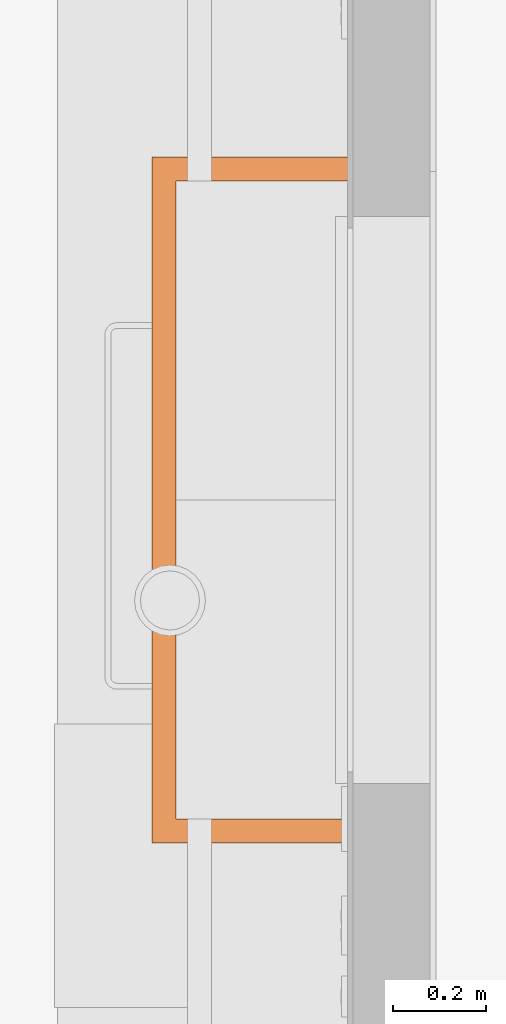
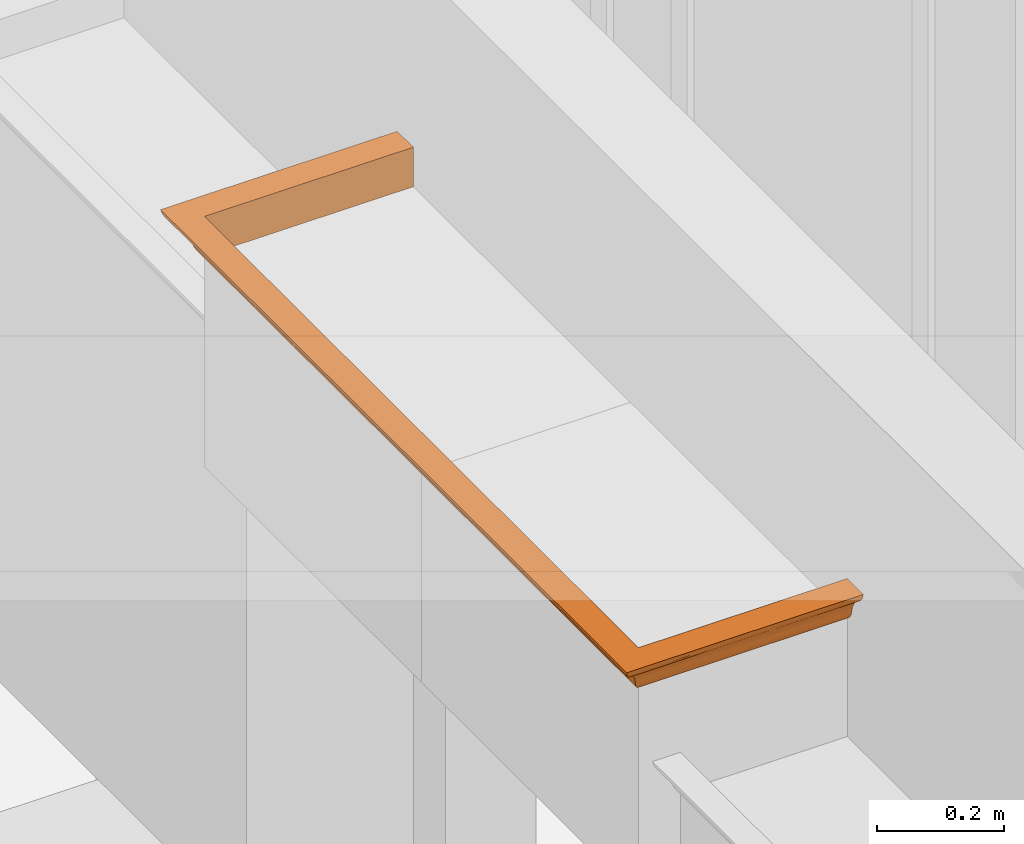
# One storey, part 74 of 81: 1 proxy.
"""IFC2X3 building model written with IfcOpenShell, lengths in feet."""

from ifc_helpers import new_model, entity, si_unit, converted_unit, derived_unit, direction, frame, origin, place, context, subcontext, project, spatial, faceted_brep, source, transform, mapped, material, type_object, type_shapes, element, save


model = new_model("IFC2X3")

# Units and contexts
model_context = context("Model", 3, precision=0.0001, world=origin(), true_north=direction((6.12303176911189e-17, 1.0)))
body_context = subcontext(model_context, "Body", "Model", "MODEL_VIEW")
ifc_project = project(units=[converted_unit("LENGTHUNIT", "FOOT", entity("IfcRatioMeasure", 0.3048), si_unit("LENGTHUNIT", "METRE"), dimensions=[1, 0, 0, 0, 0, 0, 0]), converted_unit("AREAUNIT", "SQUARE FOOT", entity("IfcRatioMeasure", 0.09290304), si_unit("AREAUNIT", "SQUARE_METRE"), dimensions=[2, 0, 0, 0, 0, 0, 0]), converted_unit("VOLUMEUNIT", "CUBIC FOOT", entity("IfcRatioMeasure", 0.028316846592), si_unit("VOLUMEUNIT", "CUBIC_METRE"), dimensions=[3, 0, 0, 0, 0, 0, 0]), converted_unit("PLANEANGLEUNIT", "DEGREE", entity("IfcRatioMeasure", 0.0174532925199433), si_unit("PLANEANGLEUNIT", "RADIAN"), dimensions=[0, 0, 0, 0, 0, 0, 0]), si_unit("MASSUNIT", "GRAM", prefix="KILO"), derived_unit("MASSDENSITYUNIT", [(si_unit("MASSUNIT", "GRAM", prefix="KILO"), 1), (si_unit("LENGTHUNIT", "METRE"), -3)]), derived_unit("MOMENTOFINERTIAUNIT", [(si_unit("LENGTHUNIT", "METRE"), 4)]), si_unit("TIMEUNIT", "SECOND"), si_unit("FREQUENCYUNIT", "HERTZ"), si_unit("THERMODYNAMICTEMPERATUREUNIT", "DEGREE_CELSIUS"), derived_unit("THERMALTRANSMITTANCEUNIT", [(si_unit("MASSUNIT", "GRAM", prefix="KILO"), 1), (si_unit("THERMODYNAMICTEMPERATUREUNIT", "KELVIN"), -1), (si_unit("TIMEUNIT", "SECOND"), -3)]), derived_unit("VOLUMETRICFLOWRATEUNIT", [(si_unit("LENGTHUNIT", "METRE"), 3), (si_unit("TIMEUNIT", "SECOND"), -1)]), si_unit("ELECTRICCURRENTUNIT", "AMPERE"), si_unit("ELECTRICVOLTAGEUNIT", "VOLT"), si_unit("POWERUNIT", "WATT"), si_unit("FORCEUNIT", "NEWTON"), si_unit("ILLUMINANCEUNIT", "LUX"), si_unit("LUMINOUSFLUXUNIT", "LUMEN"), si_unit("LUMINOUSINTENSITYUNIT", "CANDELA"), derived_unit("USERDEFINED", [(si_unit("MASSUNIT", "GRAM", prefix="KILO"), -1), (si_unit("LENGTHUNIT", "METRE"), -2), (si_unit("TIMEUNIT", "SECOND"), 3), (si_unit("LUMINOUSFLUXUNIT", "LUMEN"), 1)]), derived_unit("LINEARVELOCITYUNIT", [(si_unit("LENGTHUNIT", "METRE"), 1), (si_unit("TIMEUNIT", "SECOND"), -1)]), si_unit("PRESSUREUNIT", "PASCAL"), derived_unit("USERDEFINED", [(si_unit("LENGTHUNIT", "METRE"), -2), (si_unit("MASSUNIT", "GRAM", prefix="KILO"), 1), (si_unit("TIMEUNIT", "SECOND"), -2)]), derived_unit("LINEARFORCEUNIT", [(si_unit("MASSUNIT", "GRAM", prefix="KILO"), 1), (si_unit("LENGTHUNIT", "METRE"), 1), (si_unit("TIMEUNIT", "SECOND"), -2), (si_unit("LENGTHUNIT", "METRE"), -1)]), derived_unit("PLANARFORCEUNIT", [(si_unit("MASSUNIT", "GRAM", prefix="KILO"), 1), (si_unit("LENGTHUNIT", "METRE"), 1), (si_unit("TIMEUNIT", "SECOND"), -2), (si_unit("LENGTHUNIT", "METRE"), -2)])], contexts=[model_context])

# Site, building, storey
site_placement = place(None, origin())
site = spatial("IfcSite", under=ifc_project, at=site_placement, Name="Default", CompositionType="ELEMENT")
building_placement = place(site_placement, origin())
building = spatial("IfcBuilding", under=site, at=building_placement, CompositionType="ELEMENT")
storey_placement = place(building_placement, origin())
storey = spatial("IfcBuildingStorey", under=building, at=storey_placement, Name="First floor", CompositionType="ELEMENT", Elevation=0.0)

# Proxy
ifc_material = material(Name="Default New Material")
building_element_proxy_type = type_object("IfcBuildingElementProxyType", Name="Generic Models 32:Generic Models 28", PredefinedType="NOTDEFINED", material=ifc_material)
shared_shape = source(origin(), body_context, "Body", "Brep", [
    faceted_brep([(1.42190049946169, 4.68927499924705, 0.0179947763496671), (1.42190049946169, 4.70323561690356, 0.0344208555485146), (1.42190049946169, 4.71302868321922, 0.0536253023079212), (1.42190049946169, 4.71812551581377, 0.0745713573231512), (1.42190049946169, 4.72630874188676, 0.108201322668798), (1.42190049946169, 4.74203201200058, 0.139035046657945), (1.42190049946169, 4.76444649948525, 0.165407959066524), (1.42190049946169, 4.79234214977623, 0.185896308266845), (1.42190049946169, 4.80971664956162, 0.198657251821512), (1.42190049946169, 4.82367726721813, 0.215083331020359), (1.42190049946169, 4.83347033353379, 0.234287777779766), (1.42190049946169, 4.83856716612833, 0.255233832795), (1.42190049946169, 4.67190049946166, 0.255233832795), (1.42190049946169, 4.67190049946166, 0.00523383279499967), (1.42190049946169, 0.171900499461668, 0.00523383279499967), (1.42190049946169, 0.171900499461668, 0.255233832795), (1.42190049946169, 0.00523383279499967, 0.255233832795), (1.42190049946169, 0.0103306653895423, 0.234287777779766), (1.42190049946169, 0.0201237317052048, 0.215083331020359), (1.42190049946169, 0.0340843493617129, 0.198657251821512), (1.42190049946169, 0.0514588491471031, 0.185896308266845), (1.42190049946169, 0.0793544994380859, 0.165407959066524), (1.42190049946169, 0.101768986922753, 0.139035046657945), (1.42190049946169, 0.11749225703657, 0.108201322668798), (1.42190049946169, 0.125675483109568, 0.0745713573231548), (1.42190049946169, 0.13077231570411, 0.0536253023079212), (1.42190049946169, 0.140565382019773, 0.0344208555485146), (1.42190049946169, 0.154525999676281, 0.0179947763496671), (0.15452599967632, 4.68927499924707, 0.0179947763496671), (0.171900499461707, 4.67190049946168, 0.00523383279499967), (0.171900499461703, 4.36730199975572, 0.00523383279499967), (0.154525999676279, 0.154525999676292, 0.0179947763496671), (0.171900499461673, 0.476498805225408, 0.00523383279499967), (0.171900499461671, 0.171900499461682, 0.00523383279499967), (0.171900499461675, 0.781097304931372, 0.00523383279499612), (0.158838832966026, 0.62879810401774, 0.0142195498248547), (0.156071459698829, 1.05737580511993, 0.0165874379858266), (0.146284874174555, 0.697641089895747, 0.0267335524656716), (0.146718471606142, 0.391615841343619, 0.0262134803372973), (0.134853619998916, 0.500318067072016, 0.0442426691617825), (0.156394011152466, 1.83440308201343, 0.0163016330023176), (0.139197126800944, 1.94195106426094, 0.0365348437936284), (0.154077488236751, 2.16399889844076, 0.0184153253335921), (0.140565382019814, 4.70323561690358, 0.0344208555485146), (0.146718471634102, 4.45218515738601, 0.026213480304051), (0.134853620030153, 4.34348293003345, 0.0442426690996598), (0.133081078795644, 3.79169395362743, 0.0479768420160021), (0.125675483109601, 4.10892872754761, 0.0745713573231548), (0.171900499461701, 4.06270369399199, 0.00523383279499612), (0.158838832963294, 4.21500289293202, 0.0142195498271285), (0.125675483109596, 3.49973193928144, 0.0745713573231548), (0.1256754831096, 3.80433033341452, 0.0745713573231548), (0.125675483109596, 3.96573126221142, 0.0745713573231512), (0.125675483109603, 4.4135271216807, 0.0745713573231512), (0.130772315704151, 4.71302868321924, 0.0536253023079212), (0.136816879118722, 3.03109730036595, 0.0405444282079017), (0.150426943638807, 3.31831830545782, 0.0220581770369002), (0.147750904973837, 2.99859289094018, 0.0250054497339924), (0.129589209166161, 2.9069307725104, 0.0570153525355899), (0.12958920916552, 3.23888679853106, 0.0570153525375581), (0.149906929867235, 1.53847888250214, 0.0226112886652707), (0.17190049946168, 1.39029411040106, 0.00523383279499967), (0.133081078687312, 1.05210703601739, 0.0479768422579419), (0.125675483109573, 0.734872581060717, 0.0745713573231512), (0.125675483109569, 0.430273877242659, 0.0745713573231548), (0.140565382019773, 0.140565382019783, 0.0344208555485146), (0.13077231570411, 0.130772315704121, 0.0536253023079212), (0.156071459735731, 3.78642519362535, 0.016587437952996), (0.1719004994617, 3.75810538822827, 0.00523383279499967), (0.171900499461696, 3.45350688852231, 0.00523383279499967), (0.171900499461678, 1.08569580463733, 0.00523383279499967), (0.125675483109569, 0.897590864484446, 0.0745713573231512), (0.125675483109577, 1.0394709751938, 0.0745713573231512), (0.125675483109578, 1.34406936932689, 0.0745713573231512), (0.134632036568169, 1.50919407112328, 0.044686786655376), (0.130303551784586, 1.82516771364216, 0.0549186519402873), (0.131922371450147, 2.17489094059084, 0.0506792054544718), (0.134185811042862, 2.52027171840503, 0.0455997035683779), (0.150598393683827, 2.67980209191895, 0.0218777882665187), (0.146284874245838, 4.14615990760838, 0.0267335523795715), (0.137173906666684, 3.42700644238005, 0.0399128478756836), (0.142893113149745, 3.71833111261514, 0.0310897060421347), (0.171900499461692, 2.93770374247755, 0.00523383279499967), (0.142921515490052, 1.02102228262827, 0.0310509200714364), (0.171900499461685, 1.90609725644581, 0.00523383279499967), (0.171900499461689, 2.42190040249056, 0.00523383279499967), (0.125675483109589, 2.56246294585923, 0.0745713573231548), (0.125675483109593, 3.03109744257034, 0.0745713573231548), (0.125675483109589, 3.21333708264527, 0.0745713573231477), (0.140706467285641, 2.27273298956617, 0.0342098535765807), (0.125675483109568, 0.125675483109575, 0.0745713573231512), (0.125675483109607, 4.71812551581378, 0.0745713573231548), (0.12567548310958, 1.64866776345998, 0.0745713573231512), (0.125675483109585, 2.25786455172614, 0.0745713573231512), (0.125675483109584, 1.95326615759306, 0.0745713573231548), (0.125675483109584, 2.4414217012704, 0.0745713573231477), (0.125675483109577, 1.66950631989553, 0.0745713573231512), (0.120989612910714, 4.26423551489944, 0.0975594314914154), (0.120296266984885, 3.78912525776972, 0.0998990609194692), (0.101768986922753, 0.101768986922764, 0.139035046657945), (0.0793544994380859, 0.0793544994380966, 0.165407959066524), (0.0904012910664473, 0.735284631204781, 0.153957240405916), (0.117492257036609, 4.72630874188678, 0.108201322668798), (0.11020337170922, 4.27424705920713, 0.124711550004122), (0.101768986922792, 4.7420320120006, 0.139035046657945), (0.109811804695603, 3.72708725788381, 0.125465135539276), (0.090474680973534, 3.47214464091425, 0.153872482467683), (0.0904085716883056, 4.11354137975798, 0.153948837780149), (0.0514588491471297, 3.24851127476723, 0.185896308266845), (0.0752738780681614, 3.10561347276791, 0.169070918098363), (0.074793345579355, 2.58950547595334, 0.169484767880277), (0.104548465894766, 3.19742467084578, 0.134705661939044), (0.0933158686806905, 2.83520589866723, 0.150488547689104), (0.0868577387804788, 1.50899322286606, 0.1579024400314), (0.0514588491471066, 0.823374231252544, 0.185896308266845), (0.0514588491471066, 0.965254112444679, 0.185896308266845), (0.0514588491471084, 1.2698524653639, 0.185896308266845), (0.051458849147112, 1.55786447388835, 0.185896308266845), (0.0514588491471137, 1.59528961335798, 0.185896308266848), (0.117203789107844, 3.20471996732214, 0.108972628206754), (0.079354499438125, 4.76444649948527, 0.165407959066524), (0.120216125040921, 1.05499671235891, 0.100160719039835), (0.121075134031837, 0.583245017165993, 0.0972607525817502), (0.110198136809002, 0.576909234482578, 0.12472169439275), (0.0912797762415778, 2.11716808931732, 0.152934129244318), (0.117492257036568, 0.117492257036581, 0.108201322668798), (0.111415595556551, 2.65844075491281, 0.12230923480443), (0.0514588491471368, 4.02042665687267, 0.185896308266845), (0.0514588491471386, 4.18314523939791, 0.185896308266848), (0.0514588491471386, 4.48774359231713, 0.185896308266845), (0.034084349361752, 4.80971664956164, 0.198657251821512), (0.0514588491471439, 4.79234214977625, 0.185896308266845), (0.0514588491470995, 0.0514588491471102, 0.185896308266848), (0.0340843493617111, 0.0340843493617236, 0.198657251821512), (0.0514588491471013, 0.356057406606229, 0.185896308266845), (0.0514588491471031, 0.660655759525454, 0.185896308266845), (0.109802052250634, 1.13026597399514, 0.125483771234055), (0.104278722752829, 1.62652146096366, 0.135140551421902), (0.117247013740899, 1.57329587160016, 0.108857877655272), (0.051458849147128, 3.28593652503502, 0.185896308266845), (0.0514588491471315, 3.57394853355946, 0.185896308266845), (0.0514588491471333, 3.87854688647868, 0.185896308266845), (0.111667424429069, 2.05835726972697, 0.121796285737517), (0.0514588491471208, 2.42190049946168, 0.185896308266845), (0.0514588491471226, 2.70991250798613, 0.185896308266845), (0.0514588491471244, 2.99792451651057, 0.185896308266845), (0.0514588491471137, 1.84587648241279, 0.185896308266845), (0.0514588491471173, 2.13388849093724, 0.185896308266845), (0.0383971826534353, 0.508356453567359, 0.194882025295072), (0.0356298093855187, 0.936934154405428, 0.197249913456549), (0.0258432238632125, 0.577199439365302, 0.207396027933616), (0.0262768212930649, 0.271174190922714, 0.206875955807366), (0.0144119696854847, 0.379876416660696, 0.224905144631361), (0.0139219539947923, 1.39816178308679, 0.225895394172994), (0.0189733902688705, 1.83282424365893, 0.216852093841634), (0.0293891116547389, 1.41995038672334, 0.203355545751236), (0.0224798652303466, 3.9432203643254, 0.211713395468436), (0.014393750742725, 3.46221082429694, 0.224941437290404), (0.0126394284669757, 3.91213560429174, 0.228639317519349), (0.0383971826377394, 4.33544454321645, 0.194882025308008), (0.0185869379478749, 3.03109729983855, 0.217466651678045), (0.0295213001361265, 3.42716929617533, 0.203213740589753), (0.0344289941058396, 3.07687032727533, 0.198337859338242), (0.0333218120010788, 1.83187339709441, 0.199375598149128), (0.0305923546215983, 2.21363182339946, 0.202086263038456), (0.0052338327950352, 4.22937025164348, 0.255233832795), (0.0144119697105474, 4.46392458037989, 0.224905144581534), (0.0201237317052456, 4.82367726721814, 0.215083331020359), (0.0262768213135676, 4.57262680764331, 0.206875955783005), (0.00523383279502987, 3.62017333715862, 0.255233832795), (0.00523383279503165, 3.92477179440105, 0.255233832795), (0.00523383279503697, 4.53396870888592, 0.255233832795), (0.0103306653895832, 4.83347033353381, 0.234287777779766), (0.0126394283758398, 0.931665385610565, 0.22863931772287), (0.005233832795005, 0.614430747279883, 0.255233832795), (0.00523383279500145, 0.309832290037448, 0.255233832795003), (0.020123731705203, 0.020123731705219, 0.215083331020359), (0.0103306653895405, 0.0103306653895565, 0.234287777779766), (0.0356298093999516, 3.90686684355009, 0.197249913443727), (0.00523383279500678, 0.919028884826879, 0.255233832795), (0.00523383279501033, 1.22362734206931, 0.255233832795), (0.00523383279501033, 1.52822579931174, 0.255233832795), (0.00996946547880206, 1.72250777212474, 0.235279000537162), (0.032514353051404, 2.70991250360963, 0.200154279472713), (0.0147613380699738, 2.48781960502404, 0.224216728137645), (0.0258432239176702, 4.26660155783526, 0.207396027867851), (0.00984779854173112, 3.1543055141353, 0.235620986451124), (0.0224798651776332, 0.90058063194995, 0.211713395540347), (0.00523383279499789, 0.00523383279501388, 0.255233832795), (0.00523383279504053, 4.83856716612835, 0.255233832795), (0.00819861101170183, 2.87909968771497, 0.240755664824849), (0.00899159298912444, 2.21488797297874, 0.238158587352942), (0.00523383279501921, 2.44202085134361, 0.255233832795), (0.00845737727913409, 2.58929011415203, 0.239877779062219), (0.00523383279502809, 3.32563537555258, 0.255233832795), (0.00523383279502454, 3.03109709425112, 0.255233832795), (0.0167926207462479, 2.160394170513, 0.220469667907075), (0.00523383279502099, 2.73655881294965, 0.255233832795), (0.00523383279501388, 1.83282393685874, 0.255233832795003), (0.00523383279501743, 2.13742239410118, 0.255233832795), (0.171900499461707, 4.67190049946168, 0.255233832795), (0.171900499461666, 0.171900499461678, 0.255233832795), (0.394322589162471, 4.6970863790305, 0.0262180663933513), (1.11730192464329, 4.67190049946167, 0.00523383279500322), (0.965002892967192, 4.68491021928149, 0.0141768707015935), (0.653905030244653, 4.68479344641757, 0.0140811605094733), (0.81270365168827, 4.67190049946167, 0.00523383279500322), (1.09012005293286, 4.69673399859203, 0.0258009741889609), (0.476498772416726, 4.67190049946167, 0.00523383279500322), (0.702510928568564, 4.6975229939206, 0.0267418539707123), (1.00160666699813, 4.70869180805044, 0.0437376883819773), (0.906629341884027, 4.71506891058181, 0.0597779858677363), (0.734872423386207, 4.71812551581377, 0.0745713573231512), (1.07838612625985, 4.71812551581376, 0.0745713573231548), (0.501944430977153, 4.70894851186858, 0.0442449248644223), (0.430273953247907, 4.71812551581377, 0.0745713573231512), (0.649985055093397, 4.71812551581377, 0.0745713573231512), (0.867443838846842, 4.73327181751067, 0.124076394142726), (0.959916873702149, 4.722715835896, 0.0972255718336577), (0.432081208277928, 4.79234214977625, 0.185896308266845), (0.812703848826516, 4.79234214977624, 0.185896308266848), (0.82337422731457, 4.79234214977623, 0.185896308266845), (1.11730203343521, 4.79234214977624, 0.185896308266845), (0.750627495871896, 4.75342194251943, 0.153982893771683), (0.354196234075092, 4.81024276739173, 0.199151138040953), (0.390709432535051, 4.82939657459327, 0.224920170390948), (0.614430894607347, 4.83856716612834, 0.255233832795), (0.816298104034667, 4.83549535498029, 0.240388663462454), (0.677110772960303, 4.83022387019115, 0.226610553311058), (0.965002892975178, 4.80526059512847, 0.194764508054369), (0.653622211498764, 4.80524183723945, 0.19474915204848), (0.608911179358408, 4.8180024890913, 0.207450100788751), (1.08084801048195, 4.81717564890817, 0.206463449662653), (1.01816569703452, 4.83856716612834, 0.255233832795), (0.962217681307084, 4.82913345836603, 0.224400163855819), (1.12346884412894, 4.83496950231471, 0.238661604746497), (0.309832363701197, 4.83856716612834, 0.255233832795), (0.309832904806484, 0.00523383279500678, 0.255233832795), (0.61443117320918, 0.00523383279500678, 0.255233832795), (1.01816583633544, 0.00523383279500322, 0.255233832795), (1.00160666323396, 0.135109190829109, 0.0437376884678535), (1.09012005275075, 0.147067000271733, 0.0258009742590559), (0.702510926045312, 0.146278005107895, 0.026741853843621), (0.812703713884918, 0.171900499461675, 0.00523383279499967), (1.11730210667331, 0.171900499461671, 0.00523383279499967), (0.965002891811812, 0.158890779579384, 0.0141768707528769), (0.476498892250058, 0.171900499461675, 0.00523383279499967), (0.653905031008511, 0.159007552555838, 0.0140811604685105), (0.394322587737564, 0.146714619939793, 0.0262180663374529), (0.501944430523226, 0.134852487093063, 0.0442449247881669), (0.906629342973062, 0.128732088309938, 0.0597779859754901), (0.734872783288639, 0.125675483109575, 0.0745713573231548), (1.07838628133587, 0.125675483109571, 0.0745713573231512), (0.430273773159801, 0.125675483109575, 0.0745713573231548), (0.649985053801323, 0.125675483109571, 0.0745713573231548), (0.892218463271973, 0.11052918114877, 0.124076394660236), (0.962083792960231, 0.121130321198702, 0.0970667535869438), (0.55642161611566, 0.0721014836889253, 0.171738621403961), (0.761834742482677, 0.0913303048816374, 0.152874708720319), (0.823374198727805, 0.0514588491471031, 0.185896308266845), (0.812703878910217, 0.0514588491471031, 0.185896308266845), (0.432081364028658, 0.0514588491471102, 0.185896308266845), (1.11730218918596, 0.0514588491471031, 0.185896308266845), (0.962217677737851, 0.0146675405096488, 0.224400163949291), (1.08084801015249, 0.0266253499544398, 0.206463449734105), (0.965002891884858, 0.0385404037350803, 0.194764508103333), (0.354196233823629, 0.0335582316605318, 0.199151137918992), (0.653622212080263, 0.0385591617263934, 0.194749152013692), (0.608911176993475, 0.02579850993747, 0.207450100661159), (0.390709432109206, 0.0144044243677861, 0.224920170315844), (0.816298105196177, 0.00830564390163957, 0.240388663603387), (0.677110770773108, 0.0135771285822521, 0.22661055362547), (1.12340189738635, 0.00883798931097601, 0.238641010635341)], [[[0, 1, 2, 3, 4, 5, 6, 7, 8, 9, 10, 11, 12, 13]], [[14, 15, 16, 17, 18, 19, 20, 21, 22, 23, 24, 25, 26, 27]], [[28, 29, 30]], [[31, 32, 33]], [[34, 35, 36]], [[37, 38, 39]], [[40, 41, 42]], [[43, 44, 45]], [[46, 47, 45]], [[48, 49, 30]], [[34, 32, 35]], [[46, 50, 51, 52, 47]], [[43, 28, 44]], [[45, 53, 54]], [[55, 56, 57]], [[31, 38, 35]], [[58, 59, 55]], [[60, 61, 36]], [[62, 37, 39]], [[63, 39, 64]], [[53, 45, 47]], [[31, 65, 38]], [[39, 65, 66]], [[63, 62, 39]], [[67, 48, 68, 69]], [[36, 61, 70, 34]], [[43, 45, 54]], [[39, 66, 64]], [[62, 63, 71, 72, 73]], [[74, 41, 60]], [[41, 75, 76]], [[77, 55, 78]], [[45, 79, 46]], [[62, 73, 74]], [[67, 79, 49]], [[46, 80, 59]], [[81, 56, 80]], [[57, 82, 78]], [[31, 35, 32]], [[36, 35, 37]], [[37, 83, 36]], [[74, 60, 83]], [[60, 36, 83]], [[67, 49, 48]], [[84, 42, 85]], [[61, 60, 40]], [[30, 49, 28]], [[49, 79, 44]], [[56, 67, 69]], [[79, 67, 81]], [[56, 69, 82]], [[80, 56, 55]], [[82, 85, 78]], [[42, 78, 85]], [[86, 87, 88, 50, 59, 58]], [[89, 78, 42]], [[74, 75, 41]], [[66, 90, 64]], [[53, 91, 54]], [[77, 89, 76]], [[74, 92, 75]], [[40, 42, 84]], [[41, 76, 89]], [[39, 38, 65]], [[35, 38, 37]], [[49, 44, 28]], [[45, 44, 79]], [[81, 80, 46]], [[80, 55, 59]], [[46, 59, 50]], [[55, 77, 58]], [[86, 58, 77]], [[79, 81, 46]], [[56, 81, 67]], [[37, 62, 83]], [[93, 76, 94]], [[77, 93, 95, 86]], [[94, 76, 75]], [[93, 77, 76]], [[78, 89, 77]], [[42, 41, 89]], [[92, 74, 73]], [[75, 92, 96, 94]], [[83, 62, 74]], [[82, 57, 56]], [[78, 55, 57]], [[61, 40, 84]], [[41, 40, 60]], [[97, 52, 98]], [[99, 100, 101]], [[102, 103, 104]], [[105, 106, 107]], [[102, 97, 103]], [[108, 109, 110]], [[106, 111, 112]], [[113, 114, 115, 116, 117, 118]], [[88, 119, 98]], [[107, 120, 104]], [[121, 122, 123]], [[114, 113, 101]], [[99, 101, 123]], [[122, 71, 63, 64, 90]], [[124, 113, 118]], [[123, 125, 99]], [[107, 103, 105]], [[111, 119, 126]], [[120, 127, 128, 129, 130, 131]], [[100, 132, 133, 134, 135, 114]], [[136, 137, 138]], [[113, 136, 101]], [[136, 121, 123]], [[101, 100, 114]], [[107, 127, 120]], [[91, 97, 102]], [[106, 108, 139, 140, 141, 127]], [[136, 138, 121]], [[109, 112, 110]], [[95, 126, 119]], [[110, 112, 124]], [[125, 123, 122]], [[136, 123, 101]], [[104, 103, 107]], [[103, 97, 98]], [[125, 122, 90]], [[121, 71, 122]], [[121, 96, 92, 73, 72, 71]], [[137, 142, 138]], [[138, 96, 121]], [[138, 142, 96]], [[124, 143, 110]], [[113, 137, 136]], [[105, 103, 98]], [[97, 91, 53, 47, 52]], [[105, 98, 119]], [[98, 52, 51, 50, 88]], [[106, 105, 111]], [[142, 95, 93, 94, 96]], [[107, 106, 127]], [[119, 88, 87, 86, 95]], [[106, 112, 109]], [[109, 108, 106]], [[110, 143, 144, 145, 108]], [[124, 118, 146, 147, 143]], [[124, 137, 113]], [[124, 142, 137]], [[126, 142, 124]], [[112, 126, 124]], [[142, 126, 95]], [[112, 111, 126]], [[119, 111, 105]], [[135, 148, 149]], [[150, 151, 152]], [[153, 154, 155]], [[133, 151, 148]], [[156, 157, 158]], [[128, 159, 129]], [[135, 134, 148]], [[160, 161, 162]], [[147, 163, 164]], [[158, 165, 166]], [[167, 168, 166]], [[158, 169, 170, 165]], [[166, 171, 172]], [[167, 130, 168]], [[173, 150, 152]], [[174, 152, 175]], [[171, 166, 165]], [[133, 176, 151]], [[152, 176, 177]], [[174, 173, 152]], [[178, 128, 127, 141, 140]], [[149, 116, 115, 114, 135]], [[167, 166, 172]], [[152, 177, 175]], [[173, 174, 179, 180]], [[153, 181, 182]], [[160, 183, 184]], [[149, 155, 116]], [[166, 185, 158]], [[173, 180, 153]], [[178, 185, 159]], [[186, 157, 160]], [[156, 161, 157]], [[163, 147, 146, 118, 117]], [[133, 148, 134]], [[149, 148, 150]], [[150, 187, 149]], [[153, 155, 187]], [[155, 149, 187]], [[178, 159, 128]], [[161, 156, 178]], [[163, 117, 155]], [[129, 159, 130]], [[159, 185, 168]], [[161, 178, 140]], [[156, 185, 178]], [[183, 145, 144, 143]], [[161, 160, 157]], [[162, 139, 108, 145]], [[177, 188, 175]], [[171, 189, 172]], [[153, 182, 154]], [[184, 190, 160]], [[191, 192, 193]], [[169, 158, 157]], [[143, 164, 183]], [[194, 157, 186]], [[186, 190, 195]], [[164, 184, 183]], [[182, 191, 196]], [[164, 143, 147]], [[154, 182, 196]], [[152, 151, 176]], [[148, 151, 150]], [[159, 168, 130]], [[166, 168, 185]], [[193, 192, 197]], [[194, 169, 157]], [[190, 184, 193]], [[190, 193, 197]], [[191, 193, 184]], [[191, 184, 196]], [[191, 198, 199, 192]], [[195, 190, 197]], [[160, 190, 186]], [[184, 164, 196]], [[164, 154, 196]], [[186, 195, 194]], [[150, 173, 187]], [[187, 173, 153]], [[163, 154, 164]], [[117, 116, 155]], [[158, 185, 156]], [[183, 162, 145]], [[161, 140, 139]], [[191, 182, 198]], [[181, 153, 180]], [[181, 198, 182]], [[155, 154, 163]], [[160, 162, 183]], [[139, 162, 161]], [[200, 201, 33, 32, 34, 70, 61, 84, 85, 82, 69, 68, 48, 30, 29]], [[43, 202, 28]], [[203, 204, 0]], [[28, 202, 205]], [[206, 204, 203]], [[1, 0, 207]], [[29, 28, 208]], [[0, 13, 203]], [[204, 206, 205]], [[209, 210, 207]], [[211, 212, 213]], [[2, 210, 211]], [[214, 212, 211]], [[1, 210, 2]], [[210, 1, 207]], [[43, 54, 214]], [[209, 202, 214]], [[54, 215, 214]], [[210, 209, 214]], [[214, 215, 216, 212]], [[3, 2, 213]], [[54, 91, 102, 216, 215]], [[205, 209, 204]], [[209, 207, 204]], [[0, 204, 207]], [[206, 208, 205]], [[28, 205, 208]], [[2, 211, 213]], [[214, 211, 210]], [[214, 202, 43]], [[205, 202, 209]], [[4, 217, 5]], [[217, 4, 218]], [[4, 3, 218]], [[120, 131, 219, 220, 221]], [[6, 221, 222, 8, 7]], [[217, 223, 5]], [[223, 217, 104]], [[217, 218, 102]], [[6, 223, 221]], [[217, 102, 104]], [[223, 104, 120]], [[223, 120, 221]], [[216, 102, 218]], [[223, 6, 5]], [[218, 3, 213, 212, 216]], [[224, 167, 225]], [[226, 227, 228]], [[229, 230, 231]], [[229, 222, 221, 220]], [[9, 8, 232]], [[167, 172, 225]], [[225, 231, 224]], [[222, 229, 8]], [[227, 226, 233]], [[234, 227, 235]], [[231, 230, 224]], [[9, 234, 10]], [[234, 9, 232]], [[229, 220, 230]], [[228, 231, 225]], [[225, 172, 236]], [[130, 224, 131]], [[226, 225, 236]], [[231, 234, 232]], [[10, 235, 11]], [[231, 232, 229]], [[8, 229, 232]], [[220, 219, 230]], [[219, 131, 224]], [[219, 224, 230]], [[167, 224, 130]], [[172, 189, 236]], [[235, 227, 233]], [[228, 227, 234]], [[11, 235, 233]], [[234, 235, 10]], [[231, 228, 234]], [[226, 228, 225]], [[12, 11, 233, 226, 236, 189, 171, 165, 170, 169, 194, 195, 197, 192, 199, 198, 181, 180, 179, 174, 175, 188, 237, 238, 239, 16, 15, 201, 200]], [[12, 200, 29, 208, 206, 203, 13]], [[240, 241, 26]], [[240, 242, 241]], [[243, 244, 245]], [[14, 27, 244]], [[31, 33, 246]], [[26, 241, 27]], [[243, 245, 247]], [[247, 245, 242]], [[248, 249, 65]], [[249, 250, 251]], [[31, 248, 65]], [[249, 66, 65]], [[26, 25, 240]], [[252, 25, 24]], [[253, 254, 125, 90, 66]], [[252, 250, 25]], [[242, 240, 249]], [[249, 240, 250]], [[249, 253, 66]], [[245, 27, 241]], [[251, 250, 252]], [[246, 247, 31]], [[27, 245, 244]], [[242, 245, 241]], [[247, 242, 248]], [[246, 243, 247]], [[249, 251, 254, 253]], [[25, 250, 240]], [[247, 248, 31]], [[249, 248, 242]], [[23, 255, 256]], [[257, 258, 21]], [[255, 125, 256]], [[100, 258, 257]], [[256, 254, 251, 252, 24]], [[99, 255, 258]], [[257, 259, 260, 261, 132]], [[21, 20, 19, 262, 259]], [[258, 255, 22]], [[258, 100, 99]], [[23, 22, 255]], [[254, 256, 125]], [[23, 256, 24]], [[100, 257, 132]], [[22, 21, 258]], [[259, 257, 21]], [[125, 255, 99]], [[263, 264, 18]], [[265, 19, 264]], [[265, 260, 259, 262]], [[261, 266, 132]], [[18, 264, 19]], [[267, 266, 261]], [[263, 268, 264]], [[266, 269, 176]], [[263, 270, 271]], [[266, 176, 133]], [[176, 269, 177]], [[18, 17, 263]], [[272, 16, 239]], [[270, 263, 272]], [[271, 268, 263]], [[265, 267, 260]], [[269, 237, 177]], [[267, 265, 268]], [[237, 269, 238]], [[238, 270, 239]], [[237, 188, 177]], [[19, 265, 262]], [[268, 265, 264]], [[266, 267, 268]], [[261, 260, 267]], [[266, 268, 269]], [[266, 133, 132]], [[271, 238, 269]], [[272, 263, 17]], [[16, 272, 17]], [[239, 270, 272]], [[238, 271, 270]], [[268, 271, 269]], [[33, 201, 15, 14, 244, 243, 246]]]),
])
type_shapes(building_element_proxy_type, [shared_shape])
proxy_placement = place(storey_placement, frame((11.494766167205, 19.2444210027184, 19.244766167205)))
element("IfcBuildingElementProxy", 1, at=proxy_placement, inside=storey, type_object=building_element_proxy_type, material=ifc_material, Name="Generic Models 32:Generic Models 28", ObjectType="Generic Models 32:Generic Models 28", context=body_context, shape_type="MappedRepresentation", body=[
    mapped(shared_shape, transform((0.0, 0.0, 0.0), scale=1.0)),
])

save(model, "model.ifc")
